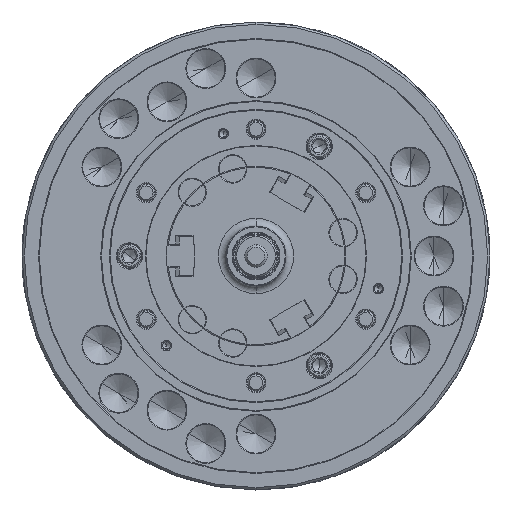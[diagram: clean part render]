
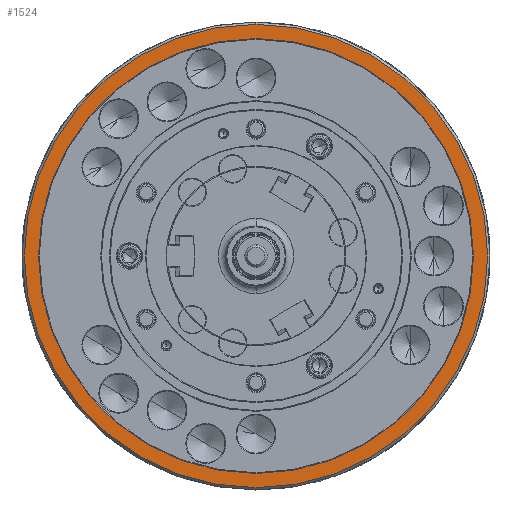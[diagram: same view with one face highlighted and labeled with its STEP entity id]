
A CAD part, left-side view. The second image highlights one B-rep face of the part: STEP entity #1524.
In plain terms, the highlighted planar face has unit normal (-1, 0, 0).
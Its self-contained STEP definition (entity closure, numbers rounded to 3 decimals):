
#489 = EDGE_LOOP ( 'NONE', ( #128930, #56434 ) ) ;
#1524 = ADVANCED_FACE ( 'NONE', ( #98445, #167049 ), #12961, .F. ) ;
#6419 = CIRCLE ( 'NONE', #114098, 302. ) ;
#11991 = CARTESIAN_POINT ( 'NONE',  ( -125., 0., 0. ) ) ;
#12571 = DIRECTION ( 'NONE',  ( -1., 0., 0. ) ) ;
#12961 = PLANE ( 'NONE',  #121017 ) ;
#16481 = AXIS2_PLACEMENT_3D ( 'NONE', #144829, #127956, #45791 ) ;
#16630 = CARTESIAN_POINT ( 'NONE',  ( -125., 0., 283.5 ) ) ;
#22708 = VERTEX_POINT ( 'NONE', #75081 ) ;
#23847 = CARTESIAN_POINT ( 'NONE',  ( -125., 0., -302. ) ) ;
#23870 = EDGE_CURVE ( 'NONE', #64097, #22708, #125624, .T. ) ;
#28351 = DIRECTION ( 'NONE',  ( 0., 0., 1. ) ) ;
#35234 = DIRECTION ( 'NONE',  ( 0., 0., 1. ) ) ;
#39711 = AXIS2_PLACEMENT_3D ( 'NONE', #11991, #109924, #131185 ) ;
#43074 = ORIENTED_EDGE ( 'NONE', *, *, #23870, .F. ) ;
#45791 = DIRECTION ( 'NONE',  ( 0., 0., 1. ) ) ;
#50054 = DIRECTION ( 'NONE',  ( 0., 0., -1. ) ) ;
#52133 = CARTESIAN_POINT ( 'NONE',  ( -125., 0., 0. ) ) ;
#53293 = VERTEX_POINT ( 'NONE', #136404 ) ;
#56434 = ORIENTED_EDGE ( 'NONE', *, *, #100700, .T. ) ;
#60098 = AXIS2_PLACEMENT_3D ( 'NONE', #52133, #120726, #35234 ) ;
#64097 = VERTEX_POINT ( 'NONE', #16630 ) ;
#75081 = CARTESIAN_POINT ( 'NONE',  ( -125., 0., -283.5 ) ) ;
#81575 = CARTESIAN_POINT ( 'NONE',  ( -125., 302., 0. ) ) ;
#86815 = ORIENTED_EDGE ( 'NONE', *, *, #181590, .F. ) ;
#89215 = CIRCLE ( 'NONE', #60098, 283.5 ) ;
#98445 = FACE_BOUND ( 'NONE', #205151, .T. ) ;
#100700 = EDGE_CURVE ( 'NONE', #53293, #136016, #152949, .T. ) ;
#109924 = DIRECTION ( 'NONE',  ( -1., 0., 0. ) ) ;
#114098 = AXIS2_PLACEMENT_3D ( 'NONE', #183542, #12571, #28351 ) ;
#120726 = DIRECTION ( 'NONE',  ( -1., 0., 0. ) ) ;
#121017 = AXIS2_PLACEMENT_3D ( 'NONE', #81575, #133293, #50054 ) ;
#125624 = CIRCLE ( 'NONE', #39711, 283.5 ) ;
#127956 = DIRECTION ( 'NONE',  ( -1., 0., 0. ) ) ;
#128930 = ORIENTED_EDGE ( 'NONE', *, *, #208242, .T. ) ;
#131185 = DIRECTION ( 'NONE',  ( 0., 0., 1. ) ) ;
#133293 = DIRECTION ( 'NONE',  ( 1., 0., 0. ) ) ;
#136016 = VERTEX_POINT ( 'NONE', #23847 ) ;
#136404 = CARTESIAN_POINT ( 'NONE',  ( -125., 0., 302. ) ) ;
#144829 = CARTESIAN_POINT ( 'NONE',  ( -125., 0., 0. ) ) ;
#152949 = CIRCLE ( 'NONE', #16481, 302. ) ;
#167049 = FACE_OUTER_BOUND ( 'NONE', #489, .T. ) ;
#181590 = EDGE_CURVE ( 'NONE', #22708, #64097, #89215, .T. ) ;
#183542 = CARTESIAN_POINT ( 'NONE',  ( -125., 0., 0. ) ) ;
#205151 = EDGE_LOOP ( 'NONE', ( #43074, #86815 ) ) ;
#208242 = EDGE_CURVE ( 'NONE', #136016, #53293, #6419, .T. ) ;
